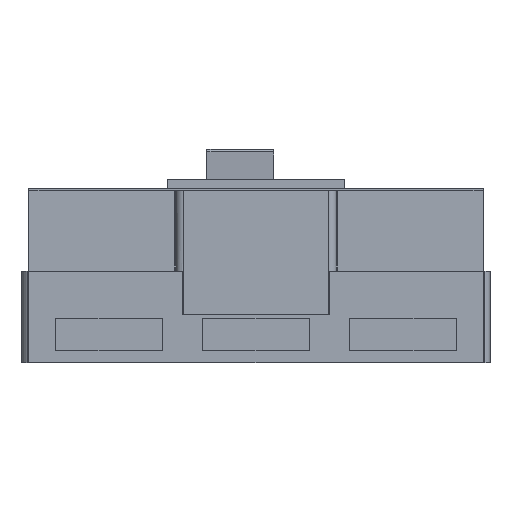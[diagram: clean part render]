
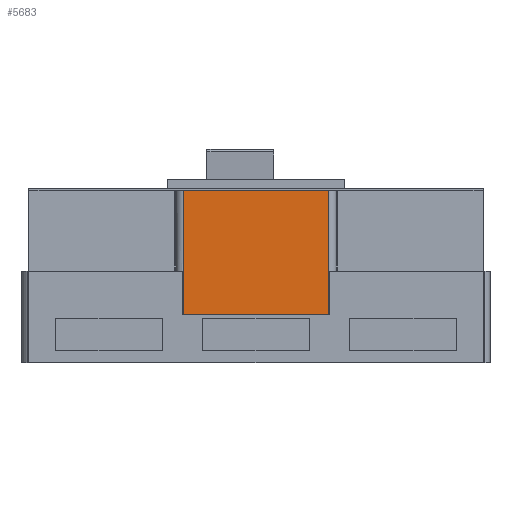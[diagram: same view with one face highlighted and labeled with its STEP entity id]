
A CAD part, front view. The second image highlights one B-rep face of the part: STEP entity #5683.
In plain terms, the highlighted planar face has unit normal (0, -1, 0).
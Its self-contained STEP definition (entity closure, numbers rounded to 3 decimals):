
#547 = AXIS2_PLACEMENT_3D ( 'NONE', #5440, #3668, #983 ) ;
#706 = EDGE_CURVE ( 'NONE', #3593, #3800, #4675, .T. ) ;
#835 = CARTESIAN_POINT ( 'NONE',  ( 280.5, -0.2, -71.493 ) ) ;
#856 = CARTESIAN_POINT ( 'NONE',  ( 280.5, -0.2, 161.8 ) ) ;
#983 = DIRECTION ( 'NONE',  ( 1., 0., 0. ) ) ;
#1116 = DIRECTION ( 'NONE',  ( 0., 0., 1. ) ) ;
#1268 = VECTOR ( 'NONE', #2478, 1000. ) ;
#1418 = DIRECTION ( 'NONE',  ( 0., 0., 1. ) ) ;
#1520 = EDGE_CURVE ( 'NONE', #4511, #3800, #4210, .T. ) ;
#1615 = CARTESIAN_POINT ( 'NONE',  ( 144.5, -0.2, 161.8 ) ) ;
#2032 = ORIENTED_EDGE ( 'NONE', *, *, #706, .F. ) ;
#2478 = DIRECTION ( 'NONE',  ( 1., 0., 0. ) ) ;
#2619 = DIRECTION ( 'NONE',  ( 1., 0., 0. ) ) ;
#2769 = VECTOR ( 'NONE', #1418, 1000. ) ;
#3039 = VECTOR ( 'NONE', #1116, 1000. ) ;
#3352 = CARTESIAN_POINT ( 'NONE',  ( 144.5, -0.2, 161.8 ) ) ;
#3405 = CARTESIAN_POINT ( 'NONE',  ( 144.5, -0.2, 45. ) ) ;
#3479 = LINE ( 'NONE', #5299, #4660 ) ;
#3563 = EDGE_LOOP ( 'NONE', ( #4027, #4839, #4435, #2032 ) ) ;
#3593 = VERTEX_POINT ( 'NONE', #3352 ) ;
#3668 = DIRECTION ( 'NONE',  ( 0., -1., 0. ) ) ;
#3697 = CARTESIAN_POINT ( 'NONE',  ( 280.5, -0.2, 45. ) ) ;
#3800 = VERTEX_POINT ( 'NONE', #856 ) ;
#3939 = EDGE_CURVE ( 'NONE', #5114, #3593, #3982, .T. ) ;
#3982 = LINE ( 'NONE', #4935, #2769 ) ;
#4027 = ORIENTED_EDGE ( 'NONE', *, *, #3939, .F. ) ;
#4100 = PLANE ( 'NONE',  #547 ) ;
#4210 = LINE ( 'NONE', #835, #3039 ) ;
#4221 = EDGE_CURVE ( 'NONE', #5114, #4511, #3479, .T. ) ;
#4435 = ORIENTED_EDGE ( 'NONE', *, *, #1520, .T. ) ;
#4511 = VERTEX_POINT ( 'NONE', #3697 ) ;
#4660 = VECTOR ( 'NONE', #2619, 1000. ) ;
#4675 = LINE ( 'NONE', #1615, #1268 ) ;
#4839 = ORIENTED_EDGE ( 'NONE', *, *, #4221, .T. ) ;
#4935 = CARTESIAN_POINT ( 'NONE',  ( 144.5, -0.2, -71.493 ) ) ;
#5114 = VERTEX_POINT ( 'NONE', #3405 ) ;
#5299 = CARTESIAN_POINT ( 'NONE',  ( 280.5, -0.2, 45. ) ) ;
#5440 = CARTESIAN_POINT ( 'NONE',  ( 144.5, -0.2, -71.493 ) ) ;
#5627 = FACE_OUTER_BOUND ( 'NONE', #3563, .T. ) ;
#5683 = ADVANCED_FACE ( 'NONE', ( #5627 ), #4100, .T. ) ;
